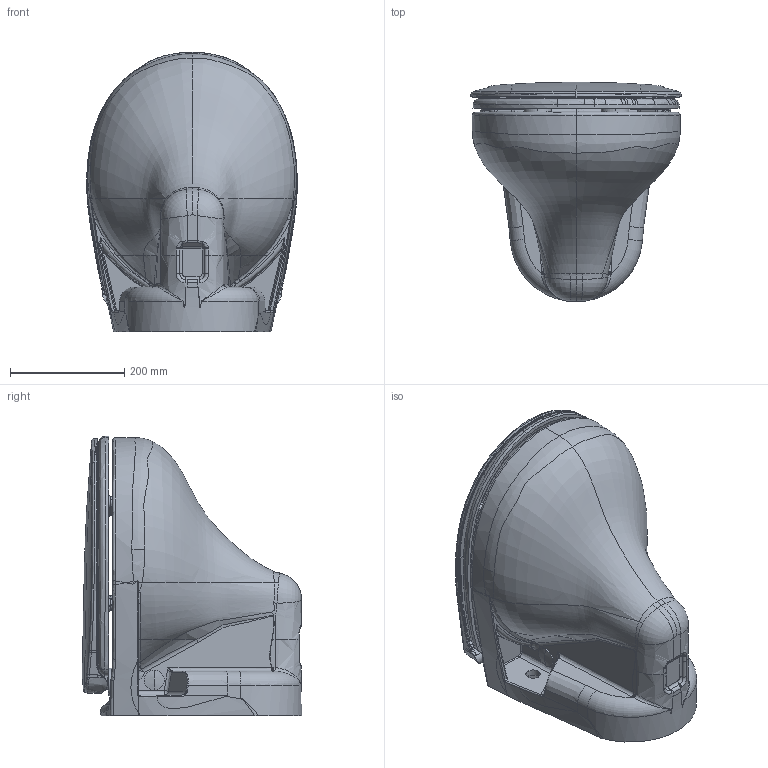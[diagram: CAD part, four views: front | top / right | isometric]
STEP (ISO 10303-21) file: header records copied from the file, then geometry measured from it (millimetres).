
FILE_DESCRIPTION (( 'STEP AP203' ), '1' );
FILE_NAME ('TP320-00CB00E-0000+KC0703.01.0000E.STEP', '2022-11-22T12:29:04', ( '' ), ( '' ), 'SwSTEP 2.0', 'SolidWorks 2021', '' );
FILE_SCHEMA (( 'CONFIG_CONTROL_DESIGN' ));
Products named in the file (1): TP320-00CB00E-0000+KC0703.01.0000E
Bounding box: 367.78 x 383.4 x 488.64 mm (x, y, z)
Volume: 9146515.1 mm3; surface area: 1654426.9 mm2
Topology: 13 solids, 17 shells, 1167 faces, 3056 edges, 1886 vertices
Faces by surface type: bspline 660, cylinder 199, plane 182, torus 61, sphere 34, cone 31
Entity records: 403649 total; most frequent: CARTESIAN_POINT 380550, ORIENTED_EDGE 6012, DIRECTION 3108, EDGE_CURVE 3006, VERTEX_POINT 1886, B_SPLINE_CURVE_WITH_KNOTS 1637, AXIS2_PLACEMENT_3D 1305, EDGE_LOOP 1202
